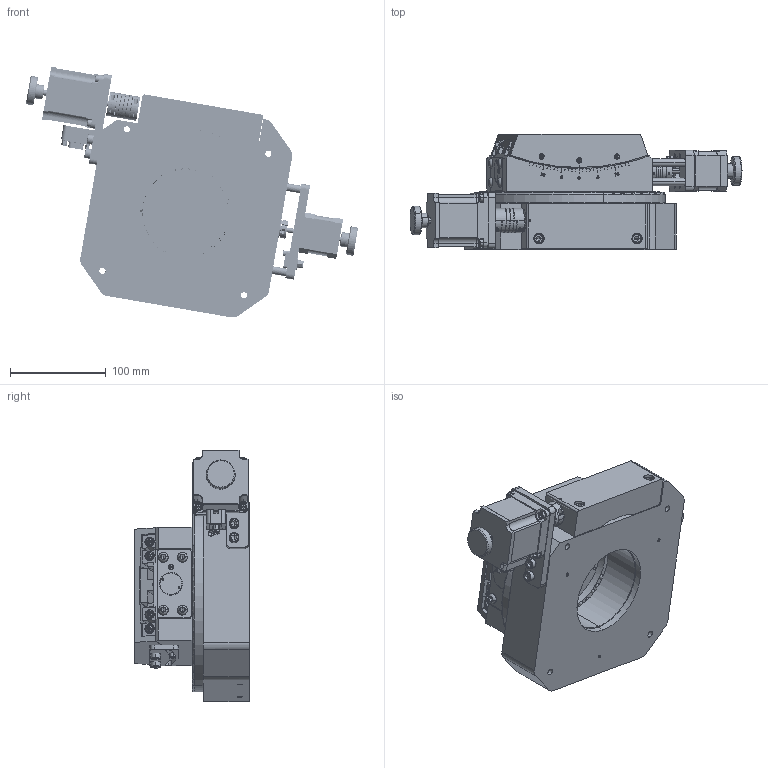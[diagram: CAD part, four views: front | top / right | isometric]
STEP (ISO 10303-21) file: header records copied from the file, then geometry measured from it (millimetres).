
FILE_DESCRIPTION (( 'STEP AP203' ), '1' );
FILE_NAME ('7SAA203.STEP', '2020-07-10T03:01:57', ( '' ), ( '' ), 'SwSTEP 2.0', 'SolidWorks 2018', '' );
FILE_SCHEMA (( 'CONFIG_CONTROL_DESIGN' ));
Length unit declared in the file: millimetre
Products named in the file (3): 7SGA310萇雄褒弇怢; 7SRA1200萇雄唅蛌怢.step; 7SAA203
Assembly tree (2 placements, depth 2):
  7SAA203
    7SGA310萇雄褒弇怢
    7SRA1200萇雄唅蛌怢.step
Bounding box: 346.77 x 120 x 262.24 mm (x, y, z)
Volume: 1002969 mm3; surface area: 494351.8 mm2
Topology: 89 solids, 118 shells, 3337 faces, 8188 edges, 5094 vertices
Faces by surface type: plane 1564, cylinder 1174, cone 430, torus 82, bspline 47, sphere 40
Entity records: 118367 total; most frequent: CARTESIAN_POINT 42615, ORIENTED_EDGE 15474, DIRECTION 14933, EDGE_CURVE 7924, AXIS2_PLACEMENT_3D 5656, VERTEX_POINT 5090, EDGE_LOOP 3997, VECTOR 3621
